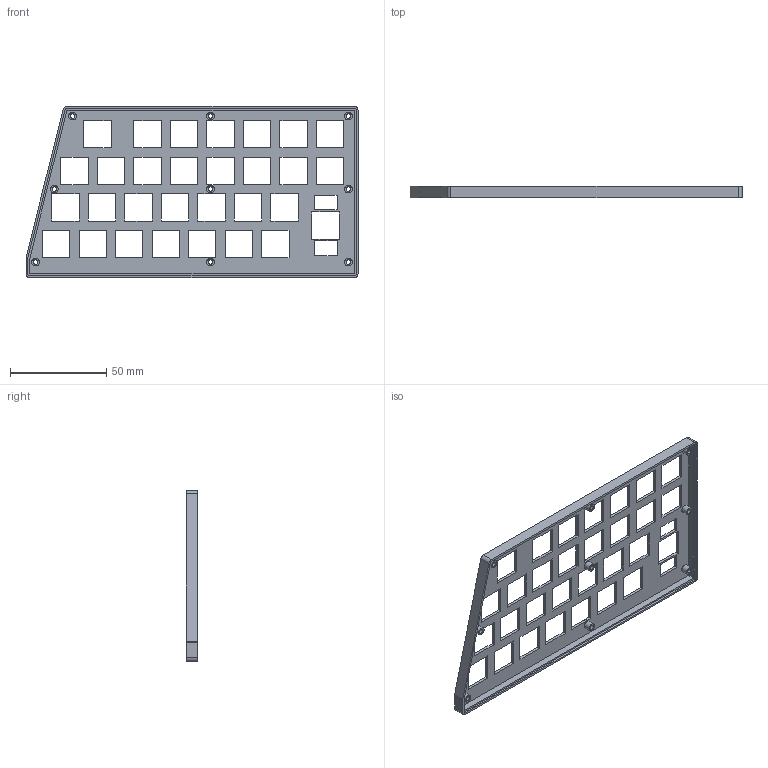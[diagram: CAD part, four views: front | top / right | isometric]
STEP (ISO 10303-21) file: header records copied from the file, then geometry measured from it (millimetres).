
FILE_DESCRIPTION(/* description */ (''),/* implementation_level */ '2;1');
FILE_NAME(/* name */ 'cradoll_keyboard_right_case_top v20.step',/* time_stamp */ '2025-06-19T16:34:34+09:00',/* author */ (''),/* organization */ (''),/* preprocessor_version */ 'ST-DEVELOPER v20.1',/* originating_system */ 'Autodesk Translation Framework v14.10.0.0',/* authorisation */ '');
FILE_SCHEMA (('AUTOMOTIVE_DESIGN { 1 0 10303 214 3 1 1 }'));
Length unit declared in the file: millimetre
Products named in the file (1): cradoll_keyboard_right_case_top
Bounding box: 172.75 x 6 x 89 mm (x, y, z)
Volume: 16668 mm3; surface area: 25260.6 mm2
Topology: 1 solids, 1 shells, 193 faces, 531 edges, 351 vertices
Faces by surface type: plane 156, cylinder 28, cone 9
Full cylindrical faces by diameter (mm): 2.4 x9, 4 x9
Entity records: 6262 total; most frequent: CARTESIAN_POINT 1076, ORIENTED_EDGE 1062, DIRECTION 984, EDGE_CURVE 531, LINE 466, VECTOR 466, VERTEX_POINT 351, EDGE_LOOP 286
